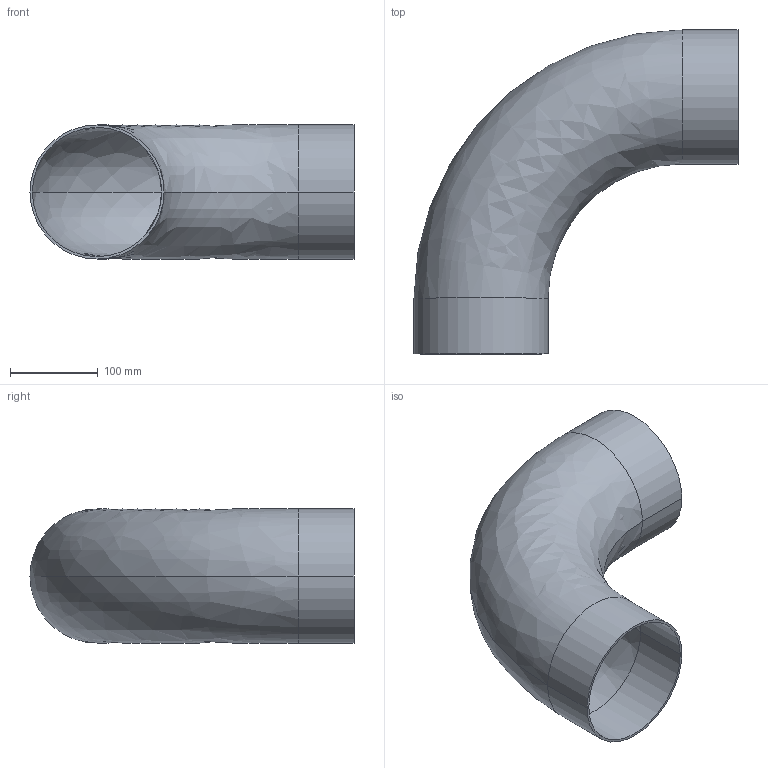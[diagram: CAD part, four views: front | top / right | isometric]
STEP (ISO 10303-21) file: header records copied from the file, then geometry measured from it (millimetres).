
FILE_DESCRIPTION (( 'STEP AP214' ), '1' );
FILE_NAME ('TE2S6L6.0-...STEP', '2016-05-22T10:30:44', ( 'eran' ), ( '' ), 'SwSTEP 2.0', 'SolidWorks 2016', '' );
FILE_SCHEMA (( 'AUTOMOTIVE_DESIGN' ));
Length unit declared in the file: millimetre
Products named in the file (1): TE2S6L6.0-..
Bounding box: 368.3 x 368.3 x 152.4 mm (x, y, z)
Volume: 632935.8 mm3; surface area: 459597.2 mm2
Topology: 1 solids, 1 shells, 14 faces, 28 edges, 16 vertices
Faces by surface type: cylinder 8, bspline 4, plane 2
Entity records: 450 total; most frequent: CARTESIAN_POINT 119, DIRECTION 70, ORIENTED_EDGE 56, AXIS2_PLACEMENT_3D 31, EDGE_CURVE 28, CIRCLE 20, VERTEX_POINT 16, EDGE_LOOP 16
